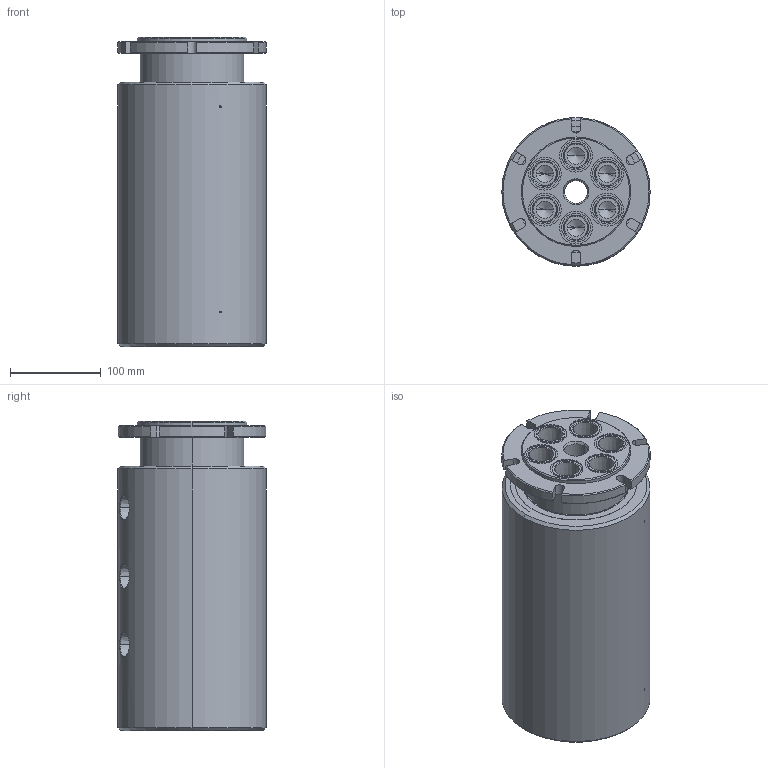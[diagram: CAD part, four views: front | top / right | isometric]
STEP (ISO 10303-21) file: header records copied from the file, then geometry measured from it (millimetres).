
FILE_DESCRIPTION (( 'STEP AP214' ), '1' );
FILE_NAME ('GP(M)-561.STEP', '2013-02-06T13:42:21', ( '' ), ( '' ), 'SwSTEP 2.0', 'SolidWorks 2011', '' );
FILE_SCHEMA (( 'AUTOMOTIVE_DESIGN' ));
Length unit declared in the file: inch
Products named in the file (1): GP(M)-561
Bounding box: 163.5 x 163.5 x 340.84 mm (x, y, z)
Volume: 6310157.6 mm3; surface area: 299419.7 mm2
Topology: 1 solids, 1 shells, 296 faces, 704 edges, 424 vertices
Faces by surface type: cylinder 120, cone 106, plane 56, bspline 12, torus 2
Entity records: 10591 total; most frequent: CARTESIAN_POINT 3493, DIRECTION 1463, ORIENTED_EDGE 1316, EDGE_CURVE 658, AXIS2_PLACEMENT_3D 600, VERTEX_POINT 424, EDGE_LOOP 358, CIRCLE 315
